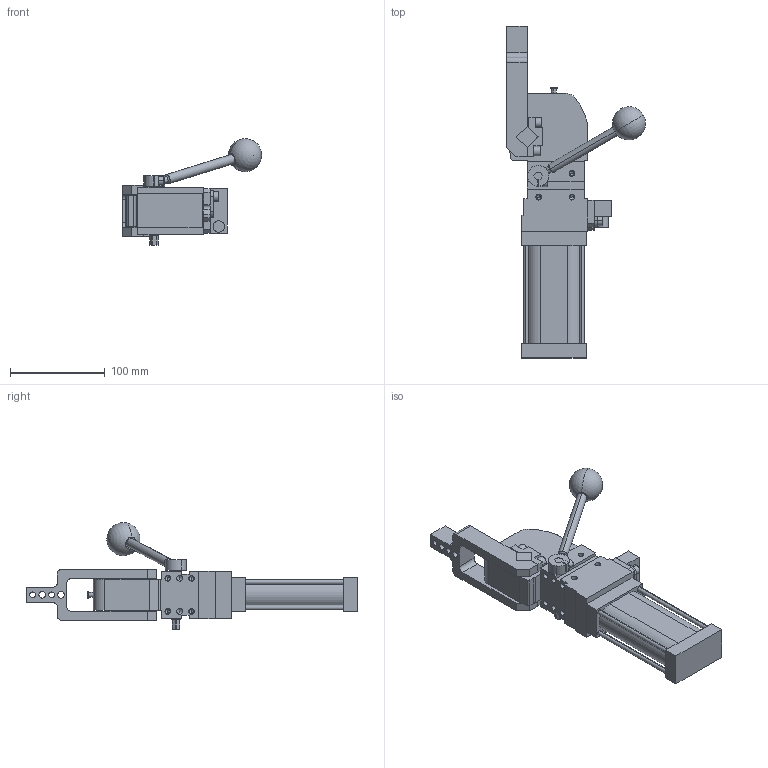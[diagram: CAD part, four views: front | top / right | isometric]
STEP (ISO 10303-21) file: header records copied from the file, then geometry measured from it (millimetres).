
FILE_DESCRIPTION (( 'STEP AP214' ), '1' );
FILE_NAME ('cplm40lah2ci1g_108.STEP', '2021-05-25T12:26:24', ( '' ), ( '' ), 'SwSTEP 2.0', 'SolidWorks 2021', '' );
FILE_SCHEMA (( 'AUTOMOTIVE_DESIGN' ));
Length unit declared in the file: millimetre
Products named in the file (6): cplm40lah2ci1g_108; piastra_blocchetto_cpl40; leva_v2c_cpl40; blocchetto_VEP_0_cpl40; comando_manuale_cplm_40; meccanica_cplm40
Assembly tree (5 placements, depth 2):
  cplm40lah2ci1g_108
    meccanica_cplm40
    leva_v2c_cpl40
    blocchetto_VEP_0_cpl40
    piastra_blocchetto_cpl40
    comando_manuale_cplm_40
Bounding box: 146.69 x 350 x 112.66 mm (x, y, z)
Volume: 798457.2 mm3; surface area: 124552.8 mm2
Topology: 6 solids, 6 shells, 458 faces, 1174 edges, 739 vertices
Faces by surface type: plane 255, cylinder 155, cone 46, sphere 2
Entity records: 15210 total; most frequent: CARTESIAN_POINT 2447, DIRECTION 2421, ORIENTED_EDGE 2254, EDGE_CURVE 1127, AXIS2_PLACEMENT_3D 832, VECTOR 757, LINE 757, VERTEX_POINT 736
